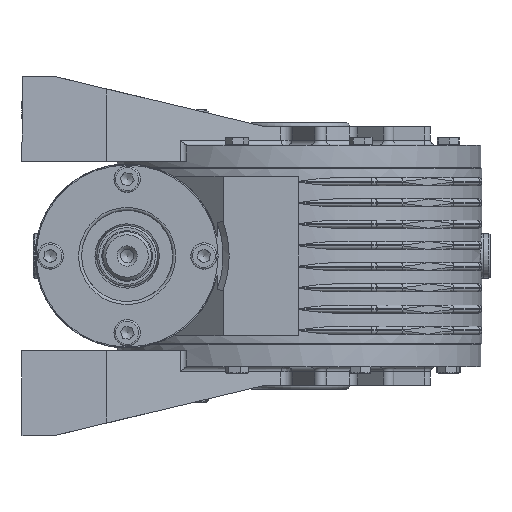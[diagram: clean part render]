
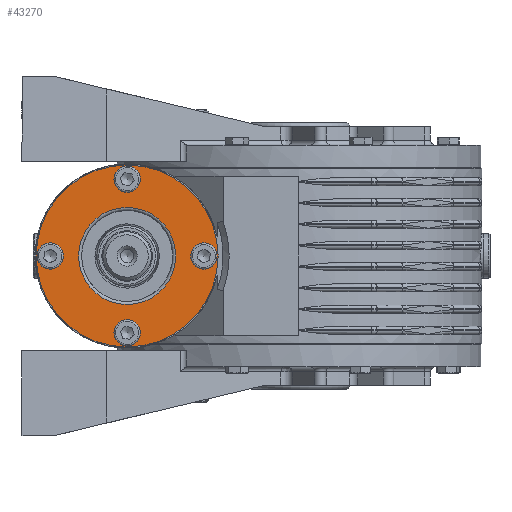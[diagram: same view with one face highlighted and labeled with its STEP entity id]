
A CAD part, left-side view. The second image highlights one B-rep face of the part: STEP entity #43270.
In plain terms, the highlighted planar face has unit normal (-1, 0, 0) as drawn and (1, 0, 0) by its records, which use the part's own axes.
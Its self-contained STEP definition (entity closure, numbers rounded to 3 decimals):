
#43184=CARTESIAN_POINT('',(0.,24.0,0.0));
#43185=VERTEX_POINT('',#43184);
#43186=CARTESIAN_POINT('',(0.,0.0,0.0));
#43187=DIRECTION('',(1.0,0.0,0.0));
#43188=DIRECTION('',(0.0,-1.0,0.0));
#43189=AXIS2_PLACEMENT_3D('',#43186,#43187,#43188);
#43190=CIRCLE('',#43189,24.0);
#43191=EDGE_CURVE('',#43185,#43185,#43190,.T.);
#43207=CARTESIAN_POINT('',(0.,33.75,0.0));
#43208=DIRECTION('',(1.0,0.0,0.0));
#43209=DIRECTION('',(0.0,0.0,-1.0));
#43210=AXIS2_PLACEMENT_3D('',#43207,#43208,#43209);
#43211=PLANE('',#43210);
#43212=CARTESIAN_POINT('',(0.,45.0,0.0));
#43213=VERTEX_POINT('',#43212);
#43214=CARTESIAN_POINT('',(0.,0.0,0.0));
#43215=DIRECTION('',(1.0,0.0,0.0));
#43216=DIRECTION('',(0.0,1.0,0.0));
#43217=AXIS2_PLACEMENT_3D('',#43214,#43215,#43216);
#43218=CIRCLE('',#43217,45.0);
#43219=EDGE_CURVE('',#43213,#43213,#43218,.T.);
#43220=ORIENTED_EDGE('',*,*,#43219,.T.);
#43221=EDGE_LOOP('',(#43220));
#43222=FACE_OUTER_BOUND('',#43221,.T.);
#43223=CARTESIAN_POINT('',(0.,38.0,4.25));
#43224=VERTEX_POINT('',#43223);
#43225=CARTESIAN_POINT('',(0.,38.0,0.0));
#43226=DIRECTION('',(-1.0,0.0,0.0));
#43227=DIRECTION('',(0.0,0.0,-1.0));
#43228=AXIS2_PLACEMENT_3D('',#43225,#43226,#43227);
#43229=CIRCLE('',#43228,4.25);
#43230=EDGE_CURVE('',#43224,#43224,#43229,.T.);
#43231=ORIENTED_EDGE('',*,*,#43230,.T.);
#43232=EDGE_LOOP('',(#43231));
#43233=FACE_BOUND('',#43232,.T.);
#43234=CARTESIAN_POINT('',(0.,-4.25,38.0));
#43235=VERTEX_POINT('',#43234);
#43236=CARTESIAN_POINT('',(0.,0.,38.0));
#43237=DIRECTION('',(-1.0,0.0,0.0));
#43238=DIRECTION('',(0.0,1.0,0.0));
#43239=AXIS2_PLACEMENT_3D('',#43236,#43237,#43238);
#43240=CIRCLE('',#43239,4.25);
#43241=EDGE_CURVE('',#43235,#43235,#43240,.T.);
#43242=ORIENTED_EDGE('',*,*,#43241,.T.);
#43243=EDGE_LOOP('',(#43242));
#43244=FACE_BOUND('',#43243,.T.);
#43245=CARTESIAN_POINT('',(0.,-38.0,-4.25));
#43246=VERTEX_POINT('',#43245);
#43247=CARTESIAN_POINT('',(0.,-38.0,0.));
#43248=DIRECTION('',(-1.0,0.0,0.0));
#43249=DIRECTION('',(0.0,0.0,1.0));
#43250=AXIS2_PLACEMENT_3D('',#43247,#43248,#43249);
#43251=CIRCLE('',#43250,4.25);
#43252=EDGE_CURVE('',#43246,#43246,#43251,.T.);
#43253=ORIENTED_EDGE('',*,*,#43252,.T.);
#43254=EDGE_LOOP('',(#43253));
#43255=FACE_BOUND('',#43254,.T.);
#43256=CARTESIAN_POINT('',(0.,4.25,-38.0));
#43257=VERTEX_POINT('',#43256);
#43258=CARTESIAN_POINT('',(0.,0.,-38.0));
#43259=DIRECTION('',(-1.0,0.0,0.0));
#43260=DIRECTION('',(0.0,-1.0,0.0));
#43261=AXIS2_PLACEMENT_3D('',#43258,#43259,#43260);
#43262=CIRCLE('',#43261,4.25);
#43263=EDGE_CURVE('',#43257,#43257,#43262,.T.);
#43264=ORIENTED_EDGE('',*,*,#43263,.T.);
#43265=EDGE_LOOP('',(#43264));
#43266=FACE_BOUND('',#43265,.T.);
#43267=ORIENTED_EDGE('',*,*,#43191,.F.);
#43268=EDGE_LOOP('',(#43267));
#43269=FACE_BOUND('',#43268,.T.);
#43270=ADVANCED_FACE('',(#43222,#43233,#43244,#43255,#43266,#43269),#43211,.T.);
